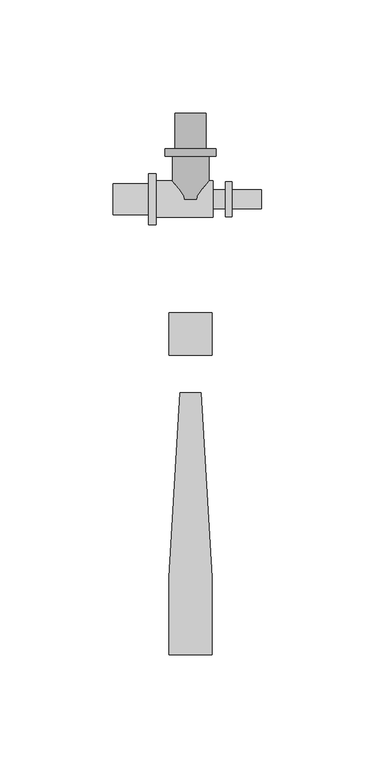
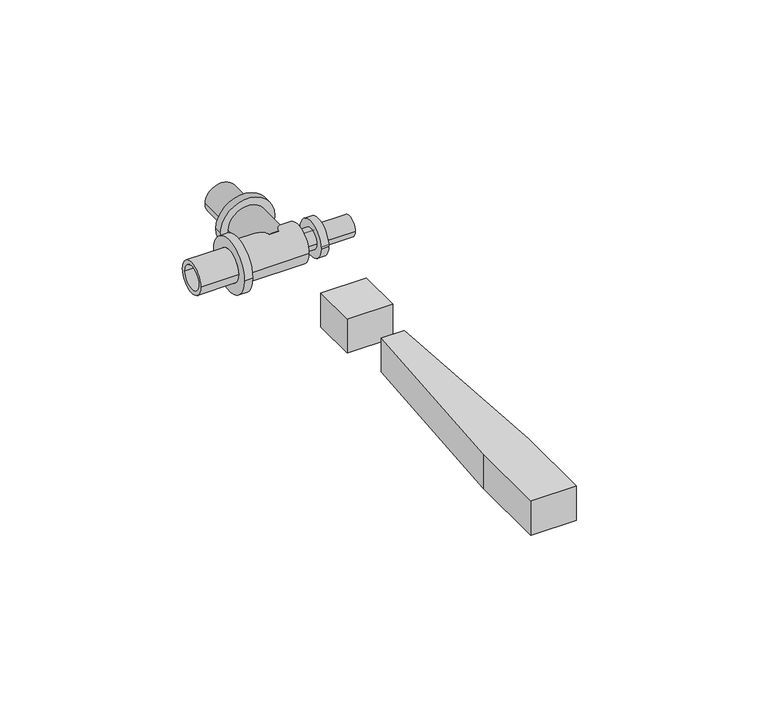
"""IFC4 building model written with IfcOpenShell, lengths in millimetres: pipe fitting geometry, RAUTITAN_T-piece_LX : RTI LX T DN."""

import ifcopenshell
import ifcopenshell.guid

model = None  # the IFC model being written
_history = None  # IfcOwnerHistory: only IFC2X3 demands one
_inside = {}  # id of a spatial element -> (the spatial element, [elements in it])
_under = {}  # id of a project, library or spatial element -> (it, [spatial elements below it])
_declared = {}  # id of a project -> (the project, [libraries it declares])
_typed = {}  # id of a type object -> (the type object, [elements of that type])
_made_of = {}  # id of a material, layer set ... -> (it, [elements and type objects made of it])


def new_model(schema):
    """Start an empty IFC model of exactly this schema.

    Asked for "IFC4X3", IfcOpenShell would pick the latest addendum, in which some entities
    have other attributes; the version numbers below select the first issue.
    IFC2X3 requires an IfcOwnerHistory on every rooted entity: one is made here for all.
    """
    global model, _history
    if schema == "IFC4X3":
        model = ifcopenshell.file(schema_version=(4, 3, 0, 0))
    else:
        model = ifcopenshell.file(schema=schema)
    _inside.clear()
    _under.clear()
    _declared.clear()
    _typed.clear()
    _made_of.clear()
    _history = None
    if model.schema == "IFC2X3":
        org = make("IfcOrganization", Name="unknown")
        user = make(
            "IfcPersonAndOrganization",
            ThePerson=make("IfcPerson", FamilyName="unknown"),
            TheOrganization=org,
        )
        app = make(
            "IfcApplication",
            ApplicationDeveloper=org,
            Version="unknown",
            ApplicationFullName="unknown",
            ApplicationIdentifier="unknown",
        )
        _history = make(
            "IfcOwnerHistory",
            OwningUser=user,
            OwningApplication=app,
            ChangeAction="ADDED",
            CreationDate=0,
        )
    return model


def make(cls, **values):
    """One entity of the class cls with the attributes given. An attribute that is None is left unset."""
    return model.create_entity(
        cls, **{name: value for name, value in values.items() if value is not None}
    )


def rooted(cls, **values):
    """An entity with a GlobalId (a new one), such as an element, a storey or a relation."""
    return make(cls, GlobalId=ifcopenshell.guid.new(), OwnerHistory=_history, **values)


def si_unit(unit_type, name, prefix=None):
    """IfcSIUnit, for example si_unit("LENGTHUNIT", "METRE", prefix="MILLI")."""
    return make("IfcSIUnit", UnitType=unit_type, Prefix=prefix, Name=name)


def assignment(units):
    """IfcUnitAssignment: the units of a project."""
    return None if units is None else make("IfcUnitAssignment", Units=units)


def point(xyz):
    """IfcCartesianPoint."""
    return None if xyz is None else make("IfcCartesianPoint", Coordinates=xyz)


def direction(xyz):
    """IfcDirection."""
    return None if xyz is None else make("IfcDirection", DirectionRatios=xyz)


def frame(location, z_axis=None, x_axis=None):
    """IfcAxis2Placement3D, a coordinate frame: its origin and axes. An axis left out is left unset."""
    return make(
        "IfcAxis2Placement3D",
        Location=point(location),
        Axis=direction(z_axis),
        RefDirection=direction(x_axis),
    )


def origin():
    """The frame at (0, 0, 0) with its axes left unset."""
    return frame((0.0, 0.0, 0.0))


def origin_with_axes():
    """The frame at (0, 0, 0) with the z axis (0, 0, 1) and the x axis (1, 0, 0) written out."""
    return frame((0.0, 0.0, 0.0), z_axis=(0.0, 0.0, 1.0), x_axis=(1.0, 0.0, 0.0))


def place(relative_to, where):
    """IfcLocalPlacement: puts the frame where relative to a parent placement (None: the world)."""
    return make(
        "IfcLocalPlacement", PlacementRelTo=relative_to, RelativePlacement=where
    )


def context(
    kind, dimensions, precision=None, world=None, true_north=None, identifier=None
):
    """IfcGeometricRepresentationContext, for example the 3D "Model" context."""
    return make(
        "IfcGeometricRepresentationContext",
        ContextIdentifier=identifier,
        ContextType=kind,
        CoordinateSpaceDimension=dimensions,
        Precision=precision,
        WorldCoordinateSystem=world,
        TrueNorth=true_north,
    )


def project(units=None, contexts=None):
    """IfcProject with its units and contexts."""
    return rooted(
        "IfcProject",
        Name="project",
        RepresentationContexts=contexts,
        UnitsInContext=assignment(units),
    )


def spatial(cls, under=None, at=None, **own):
    """A site, building, storey or space (cls), placed at a placement, below another one or the project."""
    s = rooted(cls, ObjectPlacement=at, **own)
    if under is not None:
        _under.setdefault(under.id(), (under, []))[1].append(s)
    return s


def polyline(points):
    """IfcPolyline through the points."""
    return make("IfcPolyline", Points=[point(p) for p in points])


def circle_curve(where, radius):
    """IfcCircle in the frame where."""
    return make("IfcCircle", Position=where, Radius=radius)


def outline(outer, holes=None, kind="AREA"):
    """IfcArbitraryClosedProfileDef: a profile drawn as a closed curve; with holes, ...WithVoids."""
    if holes is None:
        return make("IfcArbitraryClosedProfileDef", ProfileType=kind, OuterCurve=outer)
    return make(
        "IfcArbitraryProfileDefWithVoids",
        ProfileType=kind,
        OuterCurve=outer,
        InnerCurves=holes,
    )


def extrude(swept, where, along, depth):
    """IfcExtrudedAreaSolid: the profile swept, set in the frame where, extruded along a direction by depth."""
    return make(
        "IfcExtrudedAreaSolid",
        SweptArea=swept,
        Position=where,
        ExtrudedDirection=direction(along),
        Depth=depth,
    )


def shape(context_of_items, identifier, shape_type, items):
    """IfcShapeRepresentation: the items that make up one representation, for example the "Body"."""
    return make(
        "IfcShapeRepresentation",
        ContextOfItems=context_of_items,
        RepresentationIdentifier=identifier,
        RepresentationType=shape_type,
        Items=items,
    )


def source(mapping_origin, context_of_items, identifier, shape_type, items):
    """IfcRepresentationMap: a shape defined once, which mapped items show again and again."""
    return make(
        "IfcRepresentationMap",
        MappingOrigin=mapping_origin,
        MappedRepresentation=shape(context_of_items, identifier, shape_type, items),
    )


def transform(
    local_origin,
    x_axis=None,
    y_axis=None,
    z_axis=None,
    scale=None,
    scale2=None,
    scale3=None,
    uniform=True,
):
    """IfcCartesianTransformationOperator3D, or its non-uniform kind. x_axis, y_axis, z_axis: its Axis1, 2, 3."""
    if uniform:
        return make(
            "IfcCartesianTransformationOperator3D",
            Axis1=direction(x_axis),
            Axis2=direction(y_axis),
            LocalOrigin=point(local_origin),
            Scale=scale,
            Axis3=direction(z_axis),
        )
    return make(
        "IfcCartesianTransformationOperator3DnonUniform",
        Axis1=direction(x_axis),
        Axis2=direction(y_axis),
        LocalOrigin=point(local_origin),
        Scale=scale,
        Axis3=direction(z_axis),
        Scale2=scale2,
        Scale3=scale3,
    )


def mapped(mapping_source, mapping_target):
    """IfcMappedItem: shows the shape of a source again, moved by a transform."""
    return make(
        "IfcMappedItem", MappingSource=mapping_source, MappingTarget=mapping_target
    )


def made_of(thing, what):
    """Note that an element or type object is made of a material, layer set ...; save() writes the relation."""
    if what is not None:
        _made_of.setdefault(what.id(), (what, []))[1].append(thing)
    return thing


def element(
    cls,
    number,
    at=None,
    inside=None,
    cuts=None,
    type_object=None,
    material=None,
    context=None,
    identifier="Body",
    shape_type=None,
    held_by="IfcProductDefinitionShape",
    body=None,
    shapes=None,
    **own,
):
    """One element of the class cls, such as IfcWall. Its Tag is "e" and its number.

    at: its placement. inside: the storey or other place that contains it. cuts: it is an
    opening in that element (IfcRelVoidsElement). A single representation is given by context,
    identifier, shape_type and body (its items); several are given by shapes. held_by: the class
    of the entity that holds the representations. save() writes the other relations.
    """
    e = rooted(cls, Tag="e%d" % number, ObjectPlacement=at, **own)
    if body is not None:
        shapes = [shape(context, identifier, shape_type, body)]
    if shapes is not None:
        e.Representation = make(held_by, Representations=shapes)
    if inside is not None:
        _inside.setdefault(inside.id(), (inside, []))[1].append(e)
    if cuts is not None:
        rooted(
            "IfcRelVoidsElement", RelatingBuildingElement=cuts, RelatedOpeningElement=e
        )
    if type_object is not None:
        _typed.setdefault(type_object.id(), (type_object, []))[1].append(e)
    return made_of(e, material)


def aggregate(whole, parts):
    """IfcRelAggregates: a whole, such as a stair, and the parts it consists of."""
    return rooted("IfcRelAggregates", RelatingObject=whole, RelatedObjects=parts)


def save(model, path):
    """Write the relations noted so far, then the file.

    IfcRelAggregates (storeys below a building ...), IfcRelContainedInSpatialStructure (elements
    in a storey), IfcRelDefinesByType, IfcRelAssociatesMaterial and IfcRelDeclares: one each for
    every whole, place, type object, material and project.
    """
    for whole, parts in _under.values():
        aggregate(whole, parts)
    for where, things in _inside.values():
        rooted(
            "IfcRelContainedInSpatialStructure",
            RelatedElements=things,
            RelatingStructure=where,
        )
    for kind, things in _typed.values():
        rooted("IfcRelDefinesByType", RelatedObjects=things, RelatingType=kind)
    for what, things in _made_of.values():
        rooted("IfcRelAssociatesMaterial", RelatedObjects=things, RelatingMaterial=what)
    for by, libraries in _declared.values():
        rooted("IfcRelDeclares", RelatingContext=by, RelatedDefinitions=libraries)
    model.write(path)


def plane_surface(at):
    """IfcPlane: the flat surface through the origin of the frame at, square to its z axis."""
    return make("IfcPlane", Position=at)


def cylinder_surface(at, radius):
    """IfcCylindricalSurface: all points at the distance radius from the z axis of the frame at."""
    return make("IfcCylindricalSurface", Position=at, Radius=radius)


def revolved_surface(curve, axis_point, axis_direction):
    """IfcSurfaceOfRevolution: the curve turned about the line through axis_point along axis_direction."""
    return make(
        "IfcSurfaceOfRevolution",
        SweptCurve=make("IfcArbitraryOpenProfileDef", ProfileType="CURVE", Curve=curve),
        AxisPosition=make("IfcAxis1Placement", Location=point(axis_point), Axis=direction(axis_direction)),
    )


def advanced_brep(points, edges, surfaces, faces):
    """IfcAdvancedBrep: a solid bounded by faces that lie on surfaces and meet in shared edges.

    An edge is (start, end): straight between two places in points (the first is 0);
    or (start, end, curve); or (start, end, curve, False) where it runs against its curve.
    A face is (place in surfaces, loops), or (place, loops, False) where it looks against
    its surface's normal. A loop lists edges by number (the first is 1), with a minus sign
    where the edge is run from its end to its start. The first loop is the outer one.
    """
    corners = [point(p) for p in points]
    vertices = [make("IfcVertexPoint", VertexGeometry=c) for c in corners]
    made = []
    for start, end, *more in edges:
        made.append(
            make(
                "IfcEdgeCurve",
                EdgeStart=vertices[start],
                EdgeEnd=vertices[end],
                EdgeGeometry=more[0] if more else make("IfcPolyline", Points=[corners[start], corners[end]]),
                SameSense=more[1] if len(more) > 1 else True,
            )
        )
    hull = []
    for where, loops, *sense in faces:
        bounds = []
        for j, loop in enumerate(loops):
            ring = [make("IfcOrientedEdge", EdgeElement=made[abs(k) - 1], Orientation=k > 0) for k in loop]
            bounds.append(
                make(
                    "IfcFaceOuterBound" if j == 0 else "IfcFaceBound",
                    Bound=make("IfcEdgeLoop", EdgeList=ring),
                    Orientation=True,
                )
            )
        hull.append(make("IfcAdvancedFace", Bounds=bounds, FaceSurface=surfaces[where], SameSense=sense[0] if sense else True))
    return make("IfcAdvancedBrep", Outer=make("IfcClosedShell", CfsFaces=hull))


def pipe_fitting_aa9c421d(model_context):
    return source(origin(), model_context, "Body", "SolidModel", [
        advanced_brep(
        [(-8.05, 19.0, 0.0), (8.05, 19.0, 0.0), (8.05, 0.0, 0.0), (-8.05, 0.0, 0.0), (-11.25, 22.3, 0.0), (11.25, 22.3, 0.0), (11.25, 19.0, 0.0), (-11.25, 19.0, 0.0), (-6.75, 37.8, 0.0), (6.75, 37.8, 0.0), (6.75, 22.3, 0.0), (-6.75, 22.3, 0.0), (-4.95, 0.0, 0.0), (4.95, 0.0, 0.0), (4.95, 37.8, 0.0), (-4.95, 37.8, 0.0)],
        [
            (0, 1, circle_curve(frame((0.0, 19.0, 0.0), z_axis=(0.0, -1.0, 0.0), x_axis=(1.0, 0.0, 0.0)), 8.05)),
            (1, 2),
            (2, 3, circle_curve(frame((0.0, 0.0, 0.0), z_axis=(0.0, 1.0, 0.0), x_axis=(1.0, 0.0, 0.0)), 8.05)),
            (3, 0),
            (4, 5, circle_curve(frame((0.0, 22.3, 0.0), z_axis=(0.0, -1.0, 0.0), x_axis=(1.0, 0.0, 0.0)), 11.25)),
            (5, 6),
            (6, 7, circle_curve(frame((0.0, 19.0, 0.0), z_axis=(0.0, 1.0, 0.0), x_axis=(1.0, 0.0, 0.0)), 11.25)),
            (7, 4),
            (8, 9, circle_curve(frame((0.0, 37.8, 0.0), z_axis=(0.0, -1.0, 0.0), x_axis=(1.0, 0.0, 0.0)), 6.75)),
            (9, 10),
            (10, 11, circle_curve(frame((0.0, 22.3, 0.0), z_axis=(0.0, 1.0, 0.0), x_axis=(1.0, 0.0, 0.0)), 6.75)),
            (11, 8),
            (12, 13, circle_curve(frame((0.0, 0.0, 0.0), z_axis=(0.0, -1.0, 0.0), x_axis=(1.0, 0.0, 0.0)), 4.95)),
            (13, 14),
            (14, 15, circle_curve(frame((0.0, 37.8, 0.0), z_axis=(0.0, 1.0, 0.0), x_axis=(1.0, 0.0, 0.0)), 4.95)),
            (15, 12),
            (1, 0, circle_curve(frame((0.0, 19.0, 0.0), z_axis=(0.0, -1.0, 0.0), x_axis=(-1.0, 0.0, 0.0)), 8.05)),
            (3, 2, circle_curve(frame((0.0, 0.0, 0.0), z_axis=(0.0, 1.0, 0.0), x_axis=(-1.0, 0.0, 0.0)), 8.05)),
            (6, 7, circle_curve(frame((0.0, 19.0, 0.0), z_axis=(0.0, -1.0, 0.0), x_axis=(-1.0, 0.0, 0.0)), 11.25)),
            (5, 4, circle_curve(frame((0.0, 22.3, 0.0), z_axis=(0.0, -1.0, 0.0), x_axis=(-1.0, 0.0, 0.0)), 11.25)),
            (10, 11, circle_curve(frame((0.0, 22.3, 0.0), z_axis=(0.0, -1.0, 0.0), x_axis=(-1.0, 0.0, 0.0)), 6.75)),
            (9, 8, circle_curve(frame((0.0, 37.8, 0.0), z_axis=(0.0, -1.0, 0.0), x_axis=(-1.0, 0.0, 0.0)), 6.75)),
            (14, 15, circle_curve(frame((0.0, 37.8, 0.0), z_axis=(0.0, -1.0, 0.0), x_axis=(-1.0, 0.0, 0.0)), 4.95)),
            (13, 12, circle_curve(frame((0.0, 0.0, 0.0), z_axis=(0.0, -1.0, 0.0), x_axis=(-1.0, 0.0, 0.0)), 4.95)),
        ],
        [
            cylinder_surface(frame((0.0, 0.0, 0.0), z_axis=(0.0, 1.0, 0.0), x_axis=(1.0, 0.0, 0.0)), 8.05),
            cylinder_surface(frame((0.0, 0.0, 0.0), z_axis=(0.0, 1.0, 0.0), x_axis=(1.0, 0.0, 0.0)), 11.25),
            cylinder_surface(frame((0.0, 0.0, 0.0), z_axis=(0.0, 1.0, 0.0), x_axis=(1.0, 0.0, 0.0)), 6.75),
            revolved_surface(polyline([(4.95, 37.8, 0.0), (4.95, 0.0, 0.0)]), (0.0, 0.0, 0.0), (0.0, 1.0, 0.0)),
            cylinder_surface(frame((0.0, 0.0, 0.0), z_axis=(0.0, 1.0, 0.0), x_axis=(-1.0, 0.0, 0.0)), 8.05),
            plane_surface(frame((0.0, 19.0, 0.0), z_axis=(0.0, -1.0, 0.0), x_axis=(-1.0, 0.0, 0.0))),
            cylinder_surface(frame((0.0, 0.0, 0.0), z_axis=(0.0, 1.0, 0.0), x_axis=(-1.0, 0.0, 0.0)), 11.25),
            plane_surface(frame((0.0, 22.3, 0.0), z_axis=(0.0, 1.0, 0.0), x_axis=(-1.0, 0.0, 0.0))),
            cylinder_surface(frame((0.0, 0.0, 0.0), z_axis=(0.0, 1.0, 0.0), x_axis=(-1.0, 0.0, 0.0)), 6.75),
            plane_surface(frame((0.0, 37.8, 0.0), z_axis=(0.0, 1.0, 0.0), x_axis=(-1.0, 0.0, 0.0))),
            revolved_surface(polyline([(-4.95, 37.8, 0.0), (-4.95, 0.0, 0.0)]), (0.0, 0.0, 0.0), (0.0, 1.0, 0.0)),
            plane_surface(frame((0.0, 0.0, 0.0), z_axis=(0.0, -1.0, 0.0), x_axis=(-1.0, 0.0, 0.0))),
        ],
        [
            (0, [[1, 2, 3, 4]]),
            (1, [[5, 6, 7, 8]]),
            (2, [[9, 10, 11, 12]]),
            (3, [[13, 14, 15, 16]]),
            (4, [[17, -4, 18, -2]]),
            (5, [[19, -7], [-17, -1]]),
            (6, [[20, -8, -19, -6]]),
            (7, [[-20, -5], [21, -11]]),
            (8, [[22, -12, -21, -10]]),
            (9, [[-22, -9], [23, -15]]),
            (10, [[24, -16, -23, -14]]),
            (11, [[-18, -3], [-24, -13]]),
        ],
    ),
        advanced_brep(
        [(-34.1, 4.95, 0.0), (-34.1, -4.95, 0.0), (8.05, -4.95, 0.0), (8.05, 4.95, 0.0), (9.85, 8.05, 0.0), (9.85, -8.05, 0.0), (-15.3, -8.05, 0.0), (-15.3, 8.05, 0.0), (-15.3, 11.25, 0.0), (-15.3, -11.25, 0.0), (-18.6, -11.25, 0.0), (-18.6, 11.25, 0.0), (-18.6, 6.75, 0.0), (-18.6, -6.75, 0.0), (-34.1, -6.75, 0.0), (-34.1, 6.75, 0.0), (8.05, 2.45, 0.0), (8.05, -2.45, 0.0), (31.3, -2.45, 0.0), (31.3, 2.45, 0.0), (31.3, 4.25, 0.0), (31.3, -4.25, 0.0), (18.3, -4.25, 0.0), (18.3, 4.25, 0.0), (18.3, 7.65, 0.0), (18.3, -7.65, 0.0), (15.3, -7.65, 0.0), (15.3, 7.65, 0.0), (15.3, 4.25, 0.0), (15.3, -4.25, 0.0), (9.85, -4.25, 0.0), (9.85, 4.25, 0.0)],
        [
            (0, 1, circle_curve(frame((-34.1, 0.0, 0.0), z_axis=(-1.0, 0.0, 0.0), x_axis=(0.0, -1.0, 0.0)), 4.95)),
            (1, 2),
            (2, 3, circle_curve(frame((8.05, 0.0, 0.0), z_axis=(1.0, 0.0, 0.0), x_axis=(0.0, -1.0, 0.0)), 4.95)),
            (3, 0),
            (4, 5, circle_curve(frame((9.85, 0.0, 0.0), z_axis=(-1.0, 0.0, 0.0), x_axis=(0.0, -1.0, 0.0)), 8.05)),
            (5, 6),
            (6, 7, circle_curve(frame((-15.3, 0.0, 0.0), z_axis=(1.0, 0.0, 0.0), x_axis=(0.0, -1.0, 0.0)), 8.05)),
            (7, 4),
            (1, 0, circle_curve(frame((-34.1, 0.0, 0.0), z_axis=(-1.0, 0.0, 0.0), x_axis=(0.0, 1.0, 0.0)), 4.95)),
            (3, 2, circle_curve(frame((8.05, 0.0, 0.0), z_axis=(1.0, 0.0, 0.0), x_axis=(0.0, 1.0, 0.0)), 4.95)),
            (5, 4, circle_curve(frame((9.85, 0.0, 0.0), z_axis=(-1.0, 0.0, 0.0), x_axis=(0.0, 1.0, 0.0)), 8.05)),
            (7, 6, circle_curve(frame((-15.3, 0.0, 0.0), z_axis=(1.0, 0.0, 0.0), x_axis=(0.0, 1.0, 0.0)), 8.05)),
            (8, 9, circle_curve(frame((-15.3, 0.0, 0.0), z_axis=(-1.0, 0.0, 0.0), x_axis=(0.0, -1.0, 0.0)), 11.25)),
            (9, 10),
            (10, 11, circle_curve(frame((-18.6, 0.0, 0.0), z_axis=(1.0, 0.0, 0.0), x_axis=(0.0, -1.0, 0.0)), 11.25)),
            (11, 8),
            (12, 13, circle_curve(frame((-18.6, 0.0, 0.0), z_axis=(-1.0, 0.0, 0.0), x_axis=(0.0, -1.0, 0.0)), 6.75)),
            (13, 14),
            (14, 15, circle_curve(frame((-34.1, 0.0, 0.0), z_axis=(1.0, 0.0, 0.0), x_axis=(0.0, -1.0, 0.0)), 6.75)),
            (15, 12),
            (8, 9, circle_curve(frame((-15.3, 0.0, 0.0), z_axis=(1.0, 0.0, 0.0), x_axis=(0.0, 1.0, 0.0)), 11.25)),
            (11, 10, circle_curve(frame((-18.6, 0.0, 0.0), z_axis=(1.0, 0.0, 0.0), x_axis=(0.0, 1.0, 0.0)), 11.25)),
            (12, 13, circle_curve(frame((-18.6, 0.0, 0.0), z_axis=(1.0, 0.0, 0.0), x_axis=(0.0, 1.0, 0.0)), 6.75)),
            (15, 14, circle_curve(frame((-34.1, 0.0, 0.0), z_axis=(1.0, 0.0, 0.0), x_axis=(0.0, 1.0, 0.0)), 6.75)),
            (16, 17, circle_curve(frame((8.05, 0.0, 0.0), z_axis=(-1.0, 0.0, 0.0), x_axis=(0.0, -1.0, 0.0)), 2.45)),
            (17, 18),
            (18, 19, circle_curve(frame((31.3, 0.0, 0.0), z_axis=(1.0, 0.0, 0.0), x_axis=(0.0, -1.0, 0.0)), 2.45)),
            (19, 16),
            (20, 21, circle_curve(frame((31.3, 0.0, 0.0), z_axis=(-1.0, 0.0, 0.0), x_axis=(0.0, -1.0, 0.0)), 4.25)),
            (21, 22),
            (22, 23, circle_curve(frame((18.3, 0.0, 0.0), z_axis=(1.0, 0.0, 0.0), x_axis=(0.0, -1.0, 0.0)), 4.25)),
            (23, 20),
            (24, 25, circle_curve(frame((18.3, 0.0, 0.0), z_axis=(-1.0, 0.0, 0.0), x_axis=(0.0, -1.0, 0.0)), 7.65)),
            (25, 26),
            (26, 27, circle_curve(frame((15.3, 0.0, 0.0), z_axis=(1.0, 0.0, 0.0), x_axis=(0.0, -1.0, 0.0)), 7.65)),
            (27, 24),
            (28, 29, circle_curve(frame((15.3, 0.0, 0.0), z_axis=(-1.0, 0.0, 0.0), x_axis=(0.0, -1.0, 0.0)), 4.25)),
            (29, 30),
            (30, 31, circle_curve(frame((9.85, 0.0, 0.0), z_axis=(1.0, 0.0, 0.0), x_axis=(0.0, -1.0, 0.0)), 4.25)),
            (31, 28),
            (16, 17, circle_curve(frame((8.05, 0.0, 0.0), z_axis=(1.0, 0.0, 0.0), x_axis=(0.0, 1.0, 0.0)), 2.45)),
            (19, 18, circle_curve(frame((31.3, 0.0, 0.0), z_axis=(1.0, 0.0, 0.0), x_axis=(0.0, 1.0, 0.0)), 2.45)),
            (20, 21, circle_curve(frame((31.3, 0.0, 0.0), z_axis=(1.0, 0.0, 0.0), x_axis=(0.0, 1.0, 0.0)), 4.25)),
            (23, 22, circle_curve(frame((18.3, 0.0, 0.0), z_axis=(1.0, 0.0, 0.0), x_axis=(0.0, 1.0, 0.0)), 4.25)),
            (24, 25, circle_curve(frame((18.3, 0.0, 0.0), z_axis=(1.0, 0.0, 0.0), x_axis=(0.0, 1.0, 0.0)), 7.65)),
            (27, 26, circle_curve(frame((15.3, 0.0, 0.0), z_axis=(1.0, 0.0, 0.0), x_axis=(0.0, 1.0, 0.0)), 7.65)),
            (28, 29, circle_curve(frame((15.3, 0.0, 0.0), z_axis=(1.0, 0.0, 0.0), x_axis=(0.0, 1.0, 0.0)), 4.25)),
            (31, 30, circle_curve(frame((9.85, 0.0, 0.0), z_axis=(1.0, 0.0, 0.0), x_axis=(0.0, 1.0, 0.0)), 4.25)),
        ],
        [
            revolved_surface(polyline([(8.05, -4.95, 0.0), (-34.1, -4.95, 0.0)]), (0.0, 0.0, 0.0), (1.0, 0.0, 0.0)),
            cylinder_surface(frame((0.0, 0.0, 0.0), z_axis=(1.0, 0.0, 0.0), x_axis=(0.0, -1.0, 0.0)), 8.05),
            revolved_surface(polyline([(8.05, 4.95, 0.0), (-34.1, 4.95, 0.0)]), (0.0, 0.0, 0.0), (1.0, 0.0, 0.0)),
            cylinder_surface(frame((0.0, 0.0, 0.0), z_axis=(1.0, 0.0, 0.0), x_axis=(0.0, 1.0, 0.0)), 8.05),
            cylinder_surface(frame((0.0, 0.0, 0.0), z_axis=(1.0, 0.0, 0.0), x_axis=(0.0, -1.0, 0.0)), 11.25),
            cylinder_surface(frame((0.0, 0.0, 0.0), z_axis=(1.0, 0.0, 0.0), x_axis=(0.0, -1.0, 0.0)), 6.75),
            plane_surface(frame((-15.3, 0.0, 0.0), z_axis=(1.0, 0.0, 0.0), x_axis=(0.0, 1.0, 0.0))),
            cylinder_surface(frame((0.0, 0.0, 0.0), z_axis=(1.0, 0.0, 0.0), x_axis=(0.0, 1.0, 0.0)), 11.25),
            plane_surface(frame((-18.6, 0.0, 0.0), z_axis=(-1.0, 0.0, 0.0), x_axis=(0.0, 1.0, 0.0))),
            cylinder_surface(frame((0.0, 0.0, 0.0), z_axis=(1.0, 0.0, 0.0), x_axis=(0.0, 1.0, 0.0)), 6.75),
            plane_surface(frame((-34.1, 0.0, 0.0), z_axis=(-1.0, 0.0, 0.0), x_axis=(0.0, 1.0, 0.0))),
            revolved_surface(polyline([(31.3, -2.45, 0.0), (8.05, -2.45, 0.0)]), (0.0, 0.0, 0.0), (1.0, 0.0, 0.0)),
            cylinder_surface(frame((0.0, 0.0, 0.0), z_axis=(1.0, 0.0, 0.0), x_axis=(0.0, -1.0, 0.0)), 4.25),
            cylinder_surface(frame((0.0, 0.0, 0.0), z_axis=(1.0, 0.0, 0.0), x_axis=(0.0, -1.0, 0.0)), 7.65),
            plane_surface(frame((8.05, 0.0, 0.0), z_axis=(-1.0, 0.0, 0.0), x_axis=(0.0, 1.0, 0.0))),
            revolved_surface(polyline([(31.3, 2.45, 0.0), (8.05, 2.45, 0.0)]), (0.0, 0.0, 0.0), (1.0, 0.0, 0.0)),
            plane_surface(frame((31.3, 0.0, 0.0), z_axis=(1.0, 0.0, 0.0), x_axis=(0.0, 1.0, 0.0))),
            cylinder_surface(frame((0.0, 0.0, 0.0), z_axis=(1.0, 0.0, 0.0), x_axis=(0.0, 1.0, 0.0)), 4.25),
            plane_surface(frame((18.3, 0.0, 0.0), z_axis=(1.0, 0.0, 0.0), x_axis=(0.0, 1.0, 0.0))),
            cylinder_surface(frame((0.0, 0.0, 0.0), z_axis=(1.0, 0.0, 0.0), x_axis=(0.0, 1.0, 0.0)), 7.65),
            plane_surface(frame((15.3, 0.0, 0.0), z_axis=(-1.0, 0.0, 0.0), x_axis=(0.0, 1.0, 0.0))),
            plane_surface(frame((9.85, 0.0, 0.0), z_axis=(1.0, 0.0, 0.0), x_axis=(0.0, 1.0, 0.0))),
        ],
        [
            (0, [[1, 2, 3, 4]]),
            (1, [[5, 6, 7, 8]]),
            (2, [[9, -4, 10, -2]]),
            (3, [[11, -8, 12, -6]]),
            (4, [[13, 14, 15, 16]]),
            (5, [[17, 18, 19, 20]]),
            (6, [[21, -13], [-12, -7]]),
            (7, [[-21, -16, 22, -14]]),
            (8, [[-22, -15], [23, -17]]),
            (9, [[-23, -20, 24, -18]]),
            (10, [[-24, -19], [-9, -1]]),
            (11, [[25, 26, 27, 28]]),
            (12, [[29, 30, 31, 32]]),
            (13, [[33, 34, 35, 36]]),
            (12, [[37, 38, 39, 40]]),
            (14, [[-10, -3], [41, -25]]),
            (15, [[-41, -28, 42, -26]]),
            (16, [[43, -29], [-42, -27]]),
            (17, [[-43, -32, 44, -30]]),
            (18, [[45, -33], [-44, -31]]),
            (19, [[-45, -36, 46, -34]]),
            (20, [[-46, -35], [47, -37]]),
            (17, [[-47, -40, 48, -38]]),
            (21, [[-11, -5], [-48, -39]]),
        ],
    ),
        extrude(outline(polyline([(4.7088895, -85.3166715), (9.4177791, -166.6553807), (9.4177791, -200.6844652), (-9.4177791, -200.6844652), (-9.4177791, -166.6553807), (-4.7088895, -85.3166715), (4.7088895, -85.3166715)])), origin_with_axes(), (0.0, 0.0, 1.0), 15.0),
        extrude(outline(polyline([(9.4177791, -50.0), (9.4177791, -68.8355582), (-9.4177791, -68.8355582), (-9.4177791, -50.0), (9.4177791, -50.0)])), origin_with_axes(), (0.0, 0.0, 1.0), 15.0),
    ])


if __name__ == "__main__":
    model = new_model("IFC4")
    model_context = context("Model", 3, world=origin())
    ifc_project = project(units=[si_unit("LENGTHUNIT", "METRE", prefix="MILLI")], contexts=[model_context])
    site = spatial("IfcSite", under=ifc_project)
    building = spatial("IfcBuilding", under=site)
    placement = place(None, origin())
    pipe_fitting_shape = pipe_fitting_aa9c421d(model_context)
    element("IfcPipeFitting", 1, ObjectType="RAUTITAN_T-piece_LX : RTI LX T DN", at=placement, inside=building, context=model_context, shape_type="MappedRepresentation", body=[
        mapped(pipe_fitting_shape, transform((0.0, 0.0, 0.0), x_axis=(1.0, 0.0, 0.0), y_axis=(0.0, 1.0, 0.0), z_axis=(0.0, 0.0, 1.0))),
    ])
    save(model, "model.ifc")
